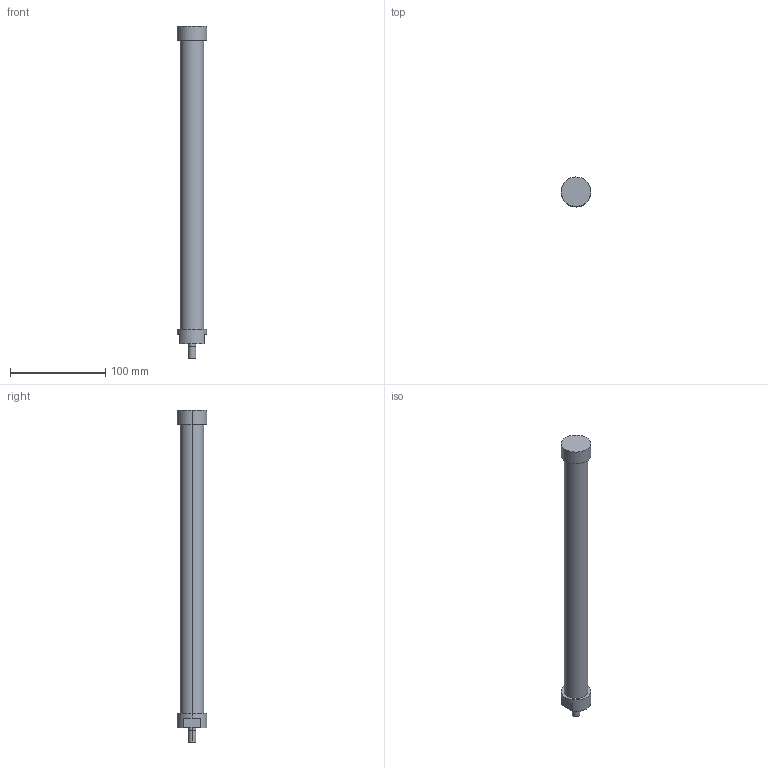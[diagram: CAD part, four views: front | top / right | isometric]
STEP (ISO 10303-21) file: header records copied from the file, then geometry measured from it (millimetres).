
FILE_DESCRIPTION(('STEP AP214'),'1');
FILE_NAME('ETT-R050M344.stp','2015-02-02T14:34:37',(' '),(' '),'Spatial InterOp 3D',' ',' ');
FILE_SCHEMA(('automotive_design'));
Length unit declared in the file: metre
Products named in the file (2): 1; 2
Bounding box: 31 x 31 x 349 mm (x, y, z)
Volume: 172050.2 mm3; surface area: 29469.3 mm2
Topology: 1 solids, 4 shells, 20 faces, 48 edges, 36 vertices
Faces by surface type: cylinder 10, plane 10
Entity records: 812 total; most frequent: DIRECTION 120, CARTESIAN_POINT 106, ORIENTED_EDGE 84, AXIS2_PLACEMENT_3D 50, EDGE_CURVE 48, VERTEX_POINT 36, CIRCLE 28, EDGE_LOOP 24
